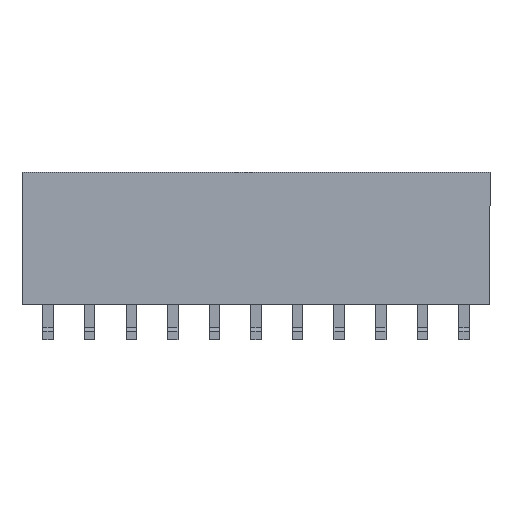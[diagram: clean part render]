
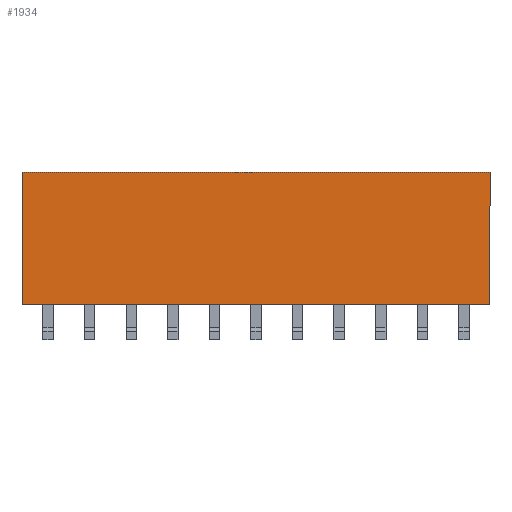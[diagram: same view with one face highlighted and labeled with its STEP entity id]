
A CAD part, top view. The second image highlights one B-rep face of the part: STEP entity #1934.
In plain terms, the highlighted planar face has unit normal (0, 0, 1).
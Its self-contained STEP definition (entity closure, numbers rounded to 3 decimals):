
#31 = CARTESIAN_POINT ( 'NONE',  ( 20.813, -3.239, 1. ) ) ;
#126 = CARTESIAN_POINT ( 'NONE',  ( -1.687, 3.111, 1. ) ) ;
#132 = DIRECTION ( 'NONE',  ( 0., -1., 0. ) ) ;
#228 = LINE ( 'NONE', #4326, #5424 ) ;
#254 = CARTESIAN_POINT ( 'NONE',  ( -1.687, -3.239, 1. ) ) ;
#323 = VERTEX_POINT ( 'NONE', #492 ) ;
#492 = CARTESIAN_POINT ( 'NONE',  ( 20.813, 3.111, 1. ) ) ;
#531 = LINE ( 'NONE', #2453, #628 ) ;
#628 = VECTOR ( 'NONE', #132, 1000. ) ;
#743 = CARTESIAN_POINT ( 'NONE',  ( -1.687, -3.239, 1. ) ) ;
#1121 = VECTOR ( 'NONE', #2609, 1000. ) ;
#1237 = VERTEX_POINT ( 'NONE', #126 ) ;
#1435 = ORIENTED_EDGE ( 'NONE', *, *, #5271, .T. ) ;
#1452 = FACE_OUTER_BOUND ( 'NONE', #3988, .T. ) ;
#1599 = CARTESIAN_POINT ( 'NONE',  ( 20.813, 3.111, 1. ) ) ;
#1713 = EDGE_CURVE ( 'NONE', #323, #1237, #228, .T. ) ;
#1825 = CARTESIAN_POINT ( 'NONE',  ( 0., 0., 1. ) ) ;
#1913 = DIRECTION ( 'NONE',  ( 0., 0., 1. ) ) ;
#1934 = ADVANCED_FACE ( 'NONE', ( #1452 ), #3318, .T. ) ;
#2181 = VERTEX_POINT ( 'NONE', #254 ) ;
#2453 = CARTESIAN_POINT ( 'NONE',  ( -1.687, 3.111, 1. ) ) ;
#2609 = DIRECTION ( 'NONE',  ( 1., 0., 0. ) ) ;
#2703 = VERTEX_POINT ( 'NONE', #31 ) ;
#2772 = DIRECTION ( 'NONE',  ( 1., 0., 0. ) ) ;
#3308 = EDGE_CURVE ( 'NONE', #323, #2703, #5787, .T. ) ;
#3318 = PLANE ( 'NONE',  #4232 ) ;
#3471 = DIRECTION ( 'NONE',  ( 0., -1., 0. ) ) ;
#3599 = ORIENTED_EDGE ( 'NONE', *, *, #5111, .T. ) ;
#3961 = DIRECTION ( 'NONE',  ( -1., 0., 0. ) ) ;
#3988 = EDGE_LOOP ( 'NONE', ( #1435, #4262, #4314, #3599 ) ) ;
#4232 = AXIS2_PLACEMENT_3D ( 'NONE', #1825, #1913, #2772 ) ;
#4262 = ORIENTED_EDGE ( 'NONE', *, *, #3308, .F. ) ;
#4314 = ORIENTED_EDGE ( 'NONE', *, *, #1713, .T. ) ;
#4326 = CARTESIAN_POINT ( 'NONE',  ( -1.687, 3.111, 1. ) ) ;
#4689 = VECTOR ( 'NONE', #3471, 1000. ) ;
#4924 = LINE ( 'NONE', #743, #1121 ) ;
#5111 = EDGE_CURVE ( 'NONE', #1237, #2181, #531, .T. ) ;
#5271 = EDGE_CURVE ( 'NONE', #2181, #2703, #4924, .T. ) ;
#5424 = VECTOR ( 'NONE', #3961, 1000. ) ;
#5787 = LINE ( 'NONE', #1599, #4689 ) ;
